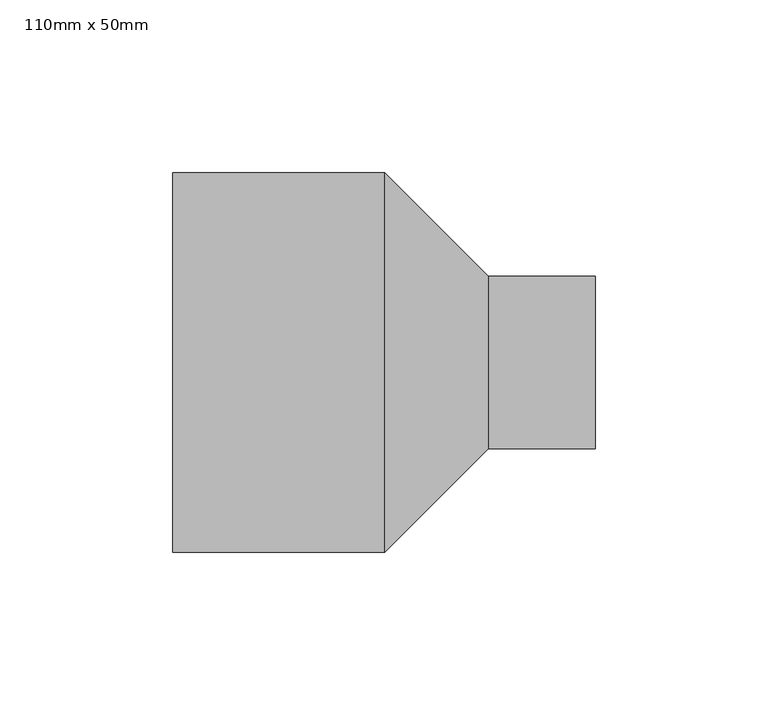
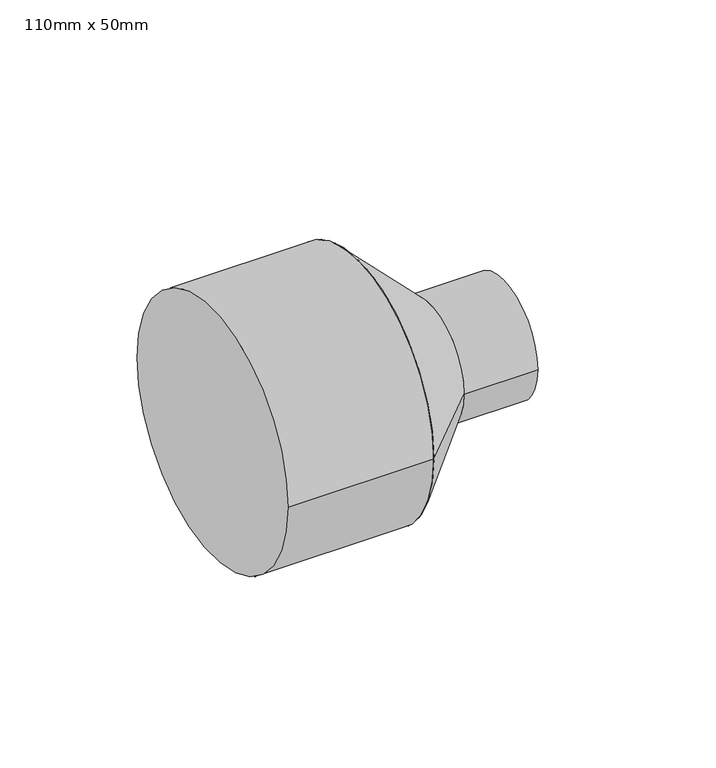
"""IFC4 building model written with IfcOpenShell, lengths in millimetres: pipe fitting geometry, PipeFitting_HTA_CPVC_ReducingBushesLongPattern : 110mm x 50mm."""

from ifc_helpers import new_model, si_unit, point, frame, origin, origin_2d, place, context, project, spatial, polyline, circle_curve, trimmed, segment, composite_curve, outline, extrude, source, transform, mapped, element, save
from ifc_brep_helpers import plane_surface, revolved_surface, advanced_brep


def pipe_fitting_110mm_x_50mm_56a76f13(model_context):
    return source(origin(), model_context, "Body", "SolidModel", [
        advanced_brep(
        [(91.5, -25.0, 0.0), (91.5, 25.0, 0.0), (61.5, -55.0, 0.0), (61.5, 55.0, 0.0)],
        [
            (0, 1, circle_curve(frame((91.5, 0.0, 0.0), z_axis=(1.0, 0.0, 0.0), x_axis=(0.0, -1.0, 0.0)), 25.0)),
            (1, 0, circle_curve(frame((91.5, 0.0, 0.0), z_axis=(1.0, 0.0, 0.0), x_axis=(0.0, 1.0, 0.0)), 25.0)),
            (2, 3, circle_curve(frame((61.5, 0.0, 0.0), z_axis=(-1.0, 0.0, 0.0), x_axis=(0.0, 1.0, 0.0)), 55.0)),
            (3, 2, circle_curve(frame((61.5, 0.0, 0.0), z_axis=(-1.0, 0.0, 0.0), x_axis=(0.0, -1.0, 0.0)), 55.0)),
            (3, 1),
            (0, 2),
        ],
        [
            plane_surface(frame((91.5, 0.0, 0.0), z_axis=(1.0, 0.0, 0.0), x_axis=(0.0, 0.0, -1.0))),
            plane_surface(frame((61.5, 0.0, 0.0), z_axis=(-1.0, 0.0, 0.0), x_axis=(0.0, 0.0, -1.0))),
            revolved_surface(polyline([(91.5, -25.0, 0.0), (61.5, -55.0, 0.0)]), (116.5, 0.0, 0.0), (-1.0, 0.0, 0.0)),
            revolved_surface(polyline([(91.5, 25.0, 0.0), (61.5, 55.0, 0.0)]), (116.5, 0.0, 0.0), (-1.0, 0.0, 0.0)),
        ],
        [
            (0, [[1, 2]]),
            (1, [[3, 4]]),
            (2, [[-4, 5, -1, 6]]),
            (3, [[-3, -6, -2, -5]]),
        ],
    ),
        extrude(outline(composite_curve([segment(trimmed(circle_curve(origin_2d(), 25.0), [point((-25.0, 0.0))], [point((25.0, 0.0))], False, "CARTESIAN"), True, "CONTINUOUS"), segment(trimmed(circle_curve(origin_2d(), 25.0), [point((25.0, 0.0))], [point((-25.0, 0.0))], False, "CARTESIAN"), True, "CONTINUOUS")], self_intersect=False)), frame((91.5, 0.0, 0.0), z_axis=(1.0, 0.0, 0.0), x_axis=(0.0, 1.0, 0.0)), (0.0, 0.0, 1.0), 31.0),
        extrude(outline(composite_curve([segment(trimmed(circle_curve(origin_2d(), 55.0), [point((-55.0, 0.0))], [point((55.0, 0.0))], False, "CARTESIAN"), True, "CONTINUOUS"), segment(trimmed(circle_curve(origin_2d(), 55.0), [point((55.0, 0.0))], [point((-55.0, 0.0))], False, "CARTESIAN"), True, "CONTINUOUS")], self_intersect=False)), frame((0.0, 0.0, 0.0), z_axis=(1.0, 0.0, 0.0), x_axis=(0.0, 1.0, 0.0)), (0.0, 0.0, 1.0), 61.5),
    ])


if __name__ == "__main__":
    model = new_model("IFC4")
    model_context = context("Model", 3, world=origin())
    ifc_project = project(units=[si_unit("LENGTHUNIT", "METRE", prefix="MILLI")], contexts=[model_context])
    site = spatial("IfcSite", under=ifc_project)
    building = spatial("IfcBuilding", under=site)
    placement = place(None, origin())
    pipe_fitting_110mm_x_50mm_shape = pipe_fitting_110mm_x_50mm_56a76f13(model_context)
    element("IfcPipeFitting", 1, ObjectType="PipeFitting_HTA_CPVC_ReducingBushesLongPattern : 110mm x 50mm", at=placement, inside=building, context=model_context, shape_type="MappedRepresentation", body=[
        mapped(pipe_fitting_110mm_x_50mm_shape, transform((0.0, 0.0, 0.0), x_axis=(1.0, 0.0, 0.0), y_axis=(0.0, 1.0, 0.0), z_axis=(0.0, 0.0, 1.0))),
    ])
    save(model, "model.ifc")
